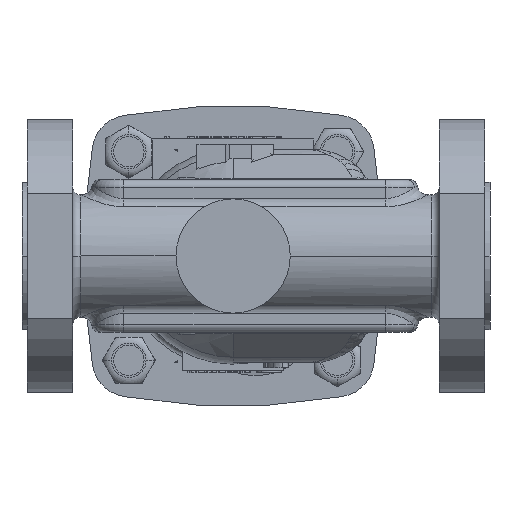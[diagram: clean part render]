
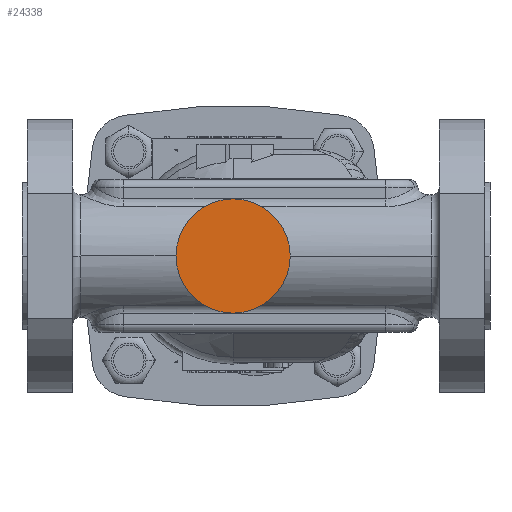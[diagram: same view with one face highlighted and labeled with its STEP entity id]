
A CAD part, front view. The second image highlights one B-rep face of the part: STEP entity #24338.
In plain terms, the highlighted planar face has unit normal (0, -1, 0).
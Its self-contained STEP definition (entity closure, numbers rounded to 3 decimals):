
#7485=CARTESIAN_POINT('',(0.,-45.,0.));
#7486=DIRECTION('',(0.,1.,0.));
#7487=DIRECTION('',(-1.,0.,0.));
#7488=AXIS2_PLACEMENT_3D('',#7485,#7486,#7487);
#7490=CARTESIAN_POINT('',(0.,-45.,0.));
#7491=DIRECTION('',(0.,-1.,0.));
#7492=DIRECTION('',(-1.,0.,0.));
#7493=AXIS2_PLACEMENT_3D('',#7490,#7491,#7492);
#10231=CARTESIAN_POINT('',(-22.45,-45.,0.));
#10232=VERTEX_POINT('',#10231);
#10245=CARTESIAN_POINT('',(22.45,-45.,0.));
#10246=VERTEX_POINT('',#10245);
#24329=CARTESIAN_POINT('',(0.,-45.,0.));
#24330=DIRECTION('',(0.,-1.,0.));
#24331=DIRECTION('',(-1.,0.,0.));
#24332=AXIS2_PLACEMENT_3D('',#24329,#24330,#24331);
#24333=PLANE('',#24332);
#24334=ORIENTED_EDGE('',*,*,#24311,.T.);
#24335=ORIENTED_EDGE('',*,*,#24322,.F.);
#24336=EDGE_LOOP('',(#24334,#24335));
#24337=FACE_OUTER_BOUND('',#24336,.F.);
#24338=ADVANCED_FACE('',(#24337),#24333,.T.);
#7489=CIRCLE('',#7488,22.45);
#7494=CIRCLE('',#7493,22.45);
#24311=EDGE_CURVE('',#10232,#10246,#7489,.T.);
#24322=EDGE_CURVE('',#10232,#10246,#7494,.T.);
